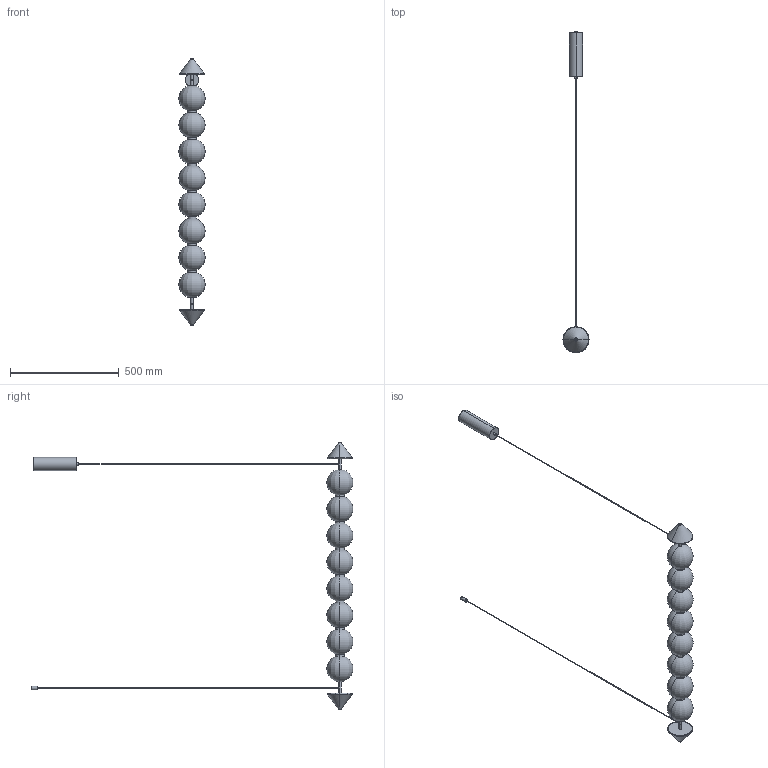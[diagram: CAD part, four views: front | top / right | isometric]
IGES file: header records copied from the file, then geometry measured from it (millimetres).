
Start section: SolidWorks IGES file using analytic representation for surfaces
Global section: file name: C:\Users\Agustin\Desktop\ENERO 2025\2D-3D\2D-3D SOKO 1335\SOKO_C1335\SOKO_C1335.IGS; native system: SolidWorks 2018; preprocessor: SolidWorks 2018; author: Agustin; date: 250117.151611; units: millimetre
Bounding box: 119.78 x 1479.89 x 1228.76 mm (x, y, z)
Surface area: 520259.1 mm2 (no closed solid volume)
Topology: 0 solids, 0 shells, 86 faces, 1760 edges, 1740 vertices
Faces by surface type: revolution 48, bspline 38
